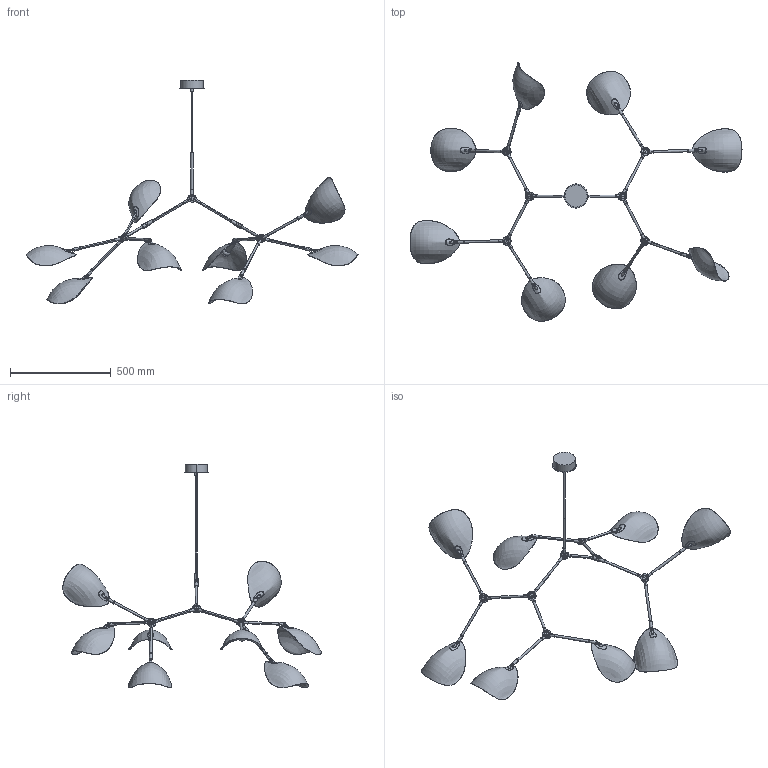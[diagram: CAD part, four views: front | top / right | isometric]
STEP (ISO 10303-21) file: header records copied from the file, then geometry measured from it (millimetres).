
FILE_DESCRIPTION(/* description */ (''),/* implementation_level */ '2;1');
FILE_NAME(/* name */ 'Stingray Chandelier',/* time_stamp */ '2025-10-28T11:01:38+01:00',/* author */ (''),/* organization */ (''),/* preprocessor_version */ 'ST-DEVELOPER v16.5',/* originating_system */ 'Rhino 7.38',/* authorisation */ '');
FILE_SCHEMA (('CONFIG_CONTROL_DESIGN'));
Length unit declared in the file: millimetre
Products named in the file (4): Document; Block 01 01; Block 02 01; Block 03 01
Assembly tree (12 placements, depth 2):
  Document
    Block 01 01  x4
    Block 02 01  x4
    Block 03 01  x4
Bounding box: 1646.32 x 1282.52 x 1110.06 mm (x, y, z)
Volume: 1230438.3 mm3; surface area: 1326190.1 mm2
Topology: 93 solids, 325 shells, 744 faces, 1926 edges, 1568 vertices
Faces by surface type: plane 318, cylinder 288, bspline 138
Entity records: 270092 total; most frequent: CARTESIAN_POINT 259588, ORIENTED_EDGE 2358, EDGE_CURVE 1504, VERTEX_POINT 1178, B_SPLINE_CURVE_WITH_KNOTS 762, EDGE_LOOP 667, ADVANCED_FACE 657, FACE_OUTER_BOUND 657
